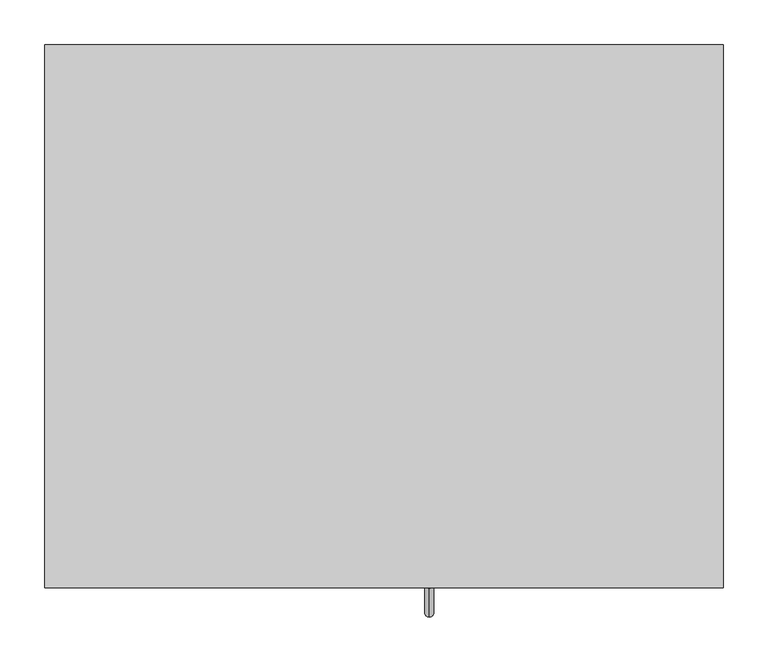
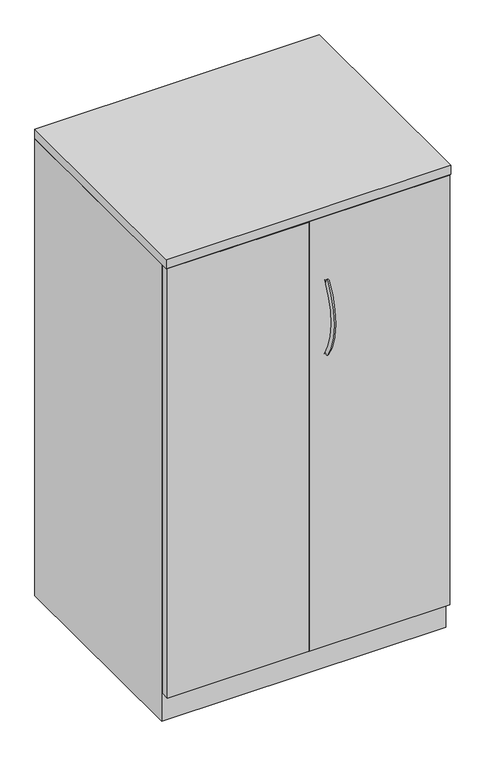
"""IFC4 building model written with IfcOpenShell, lengths in millimetres: furniture geometry, Steelcase - Universal Storage - Cabinet - Wardrobe - 52H - Proud Steel : Partition/3 Adjustable Shelf/Coat Rod - 24D x 30W."""

from ifc_helpers import new_model, si_unit, point, frame, origin, place, context, project, spatial, polyline, circle_curve, ellipse_curve, trimmed, outline, extrude, faceted_brep, source, transform, mapped, element, save
from ifc_brep_helpers import plane_surface, revolved_surface, advanced_brep


def furniture_694b034d(model_context):
    return source(origin(), model_context, "Body", "SolidModel", [
        extrude(outline(polyline([(762.0, 130.048), (762.0, -479.552), (0.0, -479.552), (0.0, 130.048), (762.0, 130.048)])), frame((0.0, 0.0, 1295.3999516), z_axis=(0.0, 0.0, 1.0), x_axis=(1.0, 0.0, 0.0)), (0.0, 0.0, 1.0), 25.4),
        extrude(outline(polyline([(381.0, -479.552), (3.1725353, -479.552), (3.1725353, -457.3261219), (381.0, -457.3261219), (381.0, -479.552)])), frame((0.0, 0.0, 77.724), z_axis=(0.0, 0.0, 1.0), x_axis=(1.0, 0.0, 0.0)), (0.0, 0.0, 1.0), 1216.152),
        extrude(outline(polyline([(758.8225413, -479.552), (382.5239992, -479.552), (382.5239992, -457.3261219), (758.8225413, -457.3261219), (758.8225413, -479.552)])), frame((0.0, 0.0, 77.724), z_axis=(0.0, 0.0, 1.0), x_axis=(1.0, 0.0, 0.0)), (0.0, 0.0, 1.0), 1216.152),
        advanced_brep(
        [(431.7682496, -480.0678374, 1114.4756859), (431.7682496, -471.5857696, 1108.8828219), (431.7682496, -477.4964738, 894.418042), (431.7682496, -469.1474089, 900.2075769)],
        [
            (0, 1, circle_curve(frame((431.7682496, -475.8268035, 1111.6792539), z_axis=(0.0, 0.5504787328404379, 0.8348491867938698), x_axis=(0.0, 0.8348491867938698, -0.5504787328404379)), 5.08)),
            (1, 0, circle_curve(frame((431.7682496, -475.8268035, 1111.6792539), z_axis=(0.0, 0.5504787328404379, 0.8348491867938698), x_axis=(0.0, 0.8348491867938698, -0.5504787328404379)), 5.08)),
            (2, 3, circle_curve(frame((431.7682496, -473.3219413, 897.3128094), z_axis=(0.0, 0.5698361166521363, -0.8217583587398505), x_axis=(0.0, 0.8217583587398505, 0.5698361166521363)), 5.08)),
            (3, 2, circle_curve(frame((431.7682496, -473.3219413, 897.3128094), z_axis=(0.0, 0.5698361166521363, -0.8217583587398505), x_axis=(0.0, 0.8217583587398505, 0.5698361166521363)), 5.08)),
            (3, 1, circle_curve(frame((431.7682496, -316.0827352, 1006.3479992), z_axis=(-1.0, 0.0, 0.0), x_axis=(0.0, -0.83484918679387, 0.5504787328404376)), 186.2648211)),
            (0, 2, circle_curve(frame((431.7682496, -316.0827352, 1006.3479992), z_axis=(1.0, 0.0, 0.0), x_axis=(0.0, -0.83484918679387, 0.5504787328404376)), 196.4248211)),
        ],
        [
            plane_surface(frame((432.5619996, -475.1785718, 1111.2518261), z_axis=(0.0, 0.5504787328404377, 0.83484918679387), x_axis=(1.0, 0.0, 0.0))),
            plane_surface(frame((432.5619996, -472.6838742, 897.7552676), z_axis=(0.0, 0.5698361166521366, -0.8217583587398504), x_axis=(1.0, 0.0, 0.0))),
            revolved_surface(trimmed(ellipse_curve(frame((431.7682496, -475.8268035, 1111.6792539), z_axis=(0.0, 0.5504787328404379, 0.8348491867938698), x_axis=(0.0, 0.8348491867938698, -0.5504787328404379)), 5.08, 5.08), [point((431.7682496, -480.0678374, 1114.4756859))], [point((431.7682496, -471.5857696, 1108.8828219))], True, "CARTESIAN"), (432.5619996, -316.0827352, 1006.3479992), (1.0, 0.0, 0.0)),
            revolved_surface(trimmed(ellipse_curve(frame((431.7682496, -475.8268035, 1111.6792539), z_axis=(0.0, 0.5504787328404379, 0.8348491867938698), x_axis=(0.0, 0.8348491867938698, -0.5504787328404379)), 5.08, 5.08), [point((431.7682496, -471.5857696, 1108.8828219))], [point((431.7682496, -480.0678374, 1114.4756859))], True, "CARTESIAN"), (432.5619996, -316.0827352, 1006.3479992), (1.0, 0.0, 0.0)),
        ],
        [
            (0, [[1, 2]]),
            (1, [[3, 4]]),
            (2, [[5, -1, 6, -4]]),
            (3, [[-6, -2, -5, -3]]),
        ],
    ),
        faceted_brep([(25.4000008, -457.3261219, 76.2), (736.6000242, -457.3261219, 76.2), (736.6000242, 104.6479992, 76.2), (25.4000008, 104.6479992, 76.2), (762.0, 130.048, 0.0), (762.0, -457.3261219, 0.0), (0.0, -457.3261219, 0.0), (0.0, 130.048, 0.0), (0.0, 130.048, 1293.876), (762.0, 130.048, 1293.876), (0.0, -457.3261219, 1293.876), (762.0, -457.3261219, 1293.876), (736.6000242, -457.3261219, 1293.876), (25.4000008, -457.3261219, 1293.876), (736.6000242, 104.6479992, 1293.876), (25.4000008, 104.6479992, 1293.876)], [[[0, 1, 2, 3]], [[4, 5, 6, 7]], [[4, 7, 8, 9]], [[8, 7, 6, 10]], [[10, 6, 5, 11, 12, 1, 0, 13]], [[11, 5, 4, 9]], [[14, 12, 11, 9, 8, 10, 13, 15]], [[12, 14, 2, 1]], [[15, 13, 0, 3]], [[14, 15, 3, 2]]]),
    ])


if __name__ == "__main__":
    model = new_model("IFC4")
    model_context = context("Model", 3, world=origin())
    ifc_project = project(units=[si_unit("LENGTHUNIT", "METRE", prefix="MILLI")], contexts=[model_context])
    site = spatial("IfcSite", under=ifc_project)
    building = spatial("IfcBuilding", under=site)
    placement = place(None, origin())
    furniture_shape = furniture_694b034d(model_context)
    element("IfcFurniture", 1, ObjectType="Steelcase - Universal Storage - Cabinet - Wardrobe - 52H - Proud Steel : Partition/3 Adjustable Shelf/Coat Rod - 24D x 30W", at=placement, inside=building, context=model_context, shape_type="MappedRepresentation", body=[
        mapped(furniture_shape, transform((0.0, 0.0, 0.0), x_axis=(1.0, 0.0, 0.0), y_axis=(0.0, 1.0, 0.0), z_axis=(0.0, 0.0, 1.0))),
    ])
    save(model, "model.ifc")
